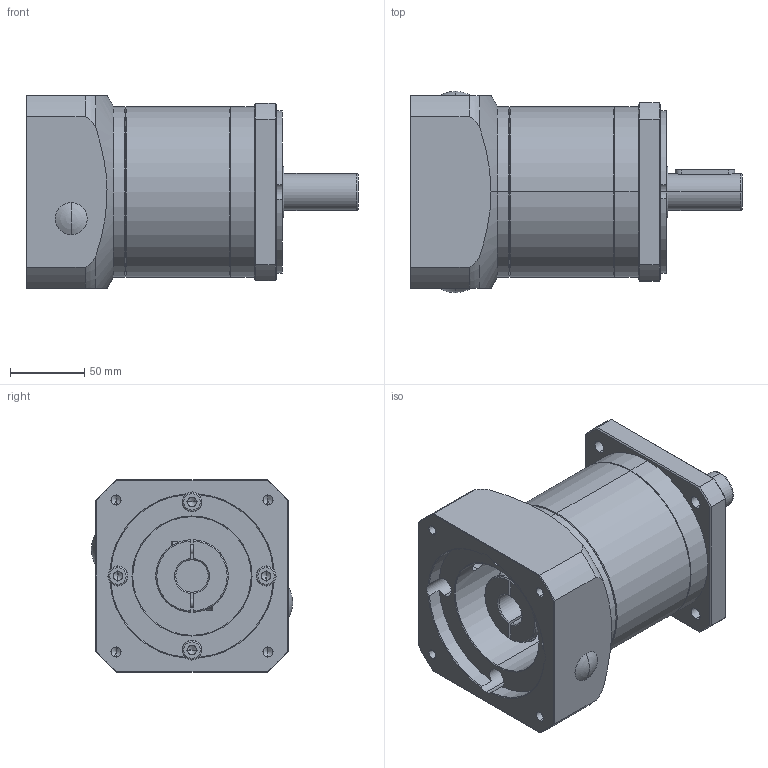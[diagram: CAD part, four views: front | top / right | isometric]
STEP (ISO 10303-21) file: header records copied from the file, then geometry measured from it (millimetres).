
FILE_DESCRIPTION (( 'STEP AP214' ), '1' );
FILE_NAME ('PF120L2-110-22-58-M8-145.STEP', '2024-09-26T09:06:31', ( '陝嫌鰻撮扲窒001' ), ( '' ), 'SwSTEP 2.0', 'SolidWorks 2016', '' );
FILE_SCHEMA (( 'AUTOMOTIVE_DESIGN' ));
Length unit declared in the file: millimetre
Products named in the file (8): PF120二级齿圈-外形; hexagon socket head cap screws gb_GB_FASTENER_SCREWS_HSHCS M6X20-N; hexagon socket head cap screws gb_GB_FASTENER_SCREWS_HSHCS M8X25-N; PF120薊粣ん-俋倛22; PF120L2-110-22-58-M8-145; PF120怀堤傷裔-源; PF120输入端盖-外形110-M8-145; PF120黑裔15
Assembly tree (16 placements, depth 2):
  PF120L2-110-22-58-M8-145
    PF120怀堤傷裔-源
    PF120二级齿圈-外形
    PF120输入端盖-外形110-M8-145
    PF120薊粣ん-俋倛22
    hexagon socket head cap screws gb_GB_FASTENER_SCREWS_HSHCS M6X20-N  x2
    PF120黑裔15  x2
    hexagon socket head cap screws gb_GB_FASTENER_SCREWS_HSHCS M8X25-N  x8
Bounding box: 224 x 136 x 130 mm (x, y, z)
Volume: 1478789.4 mm3; surface area: 217540.6 mm2
Topology: 17 solids, 17 shells, 525 faces, 1248 edges, 763 vertices
Faces by surface type: plane 234, cylinder 168, cone 89, torus 34
Entity records: 11112 total; most frequent: CARTESIAN_POINT 2246, DIRECTION 1677, ORIENTED_EDGE 1470, EDGE_CURVE 735, AXIS2_PLACEMENT_3D 689, VERTEX_POINT 468, EDGE_LOOP 367, CIRCLE 365
